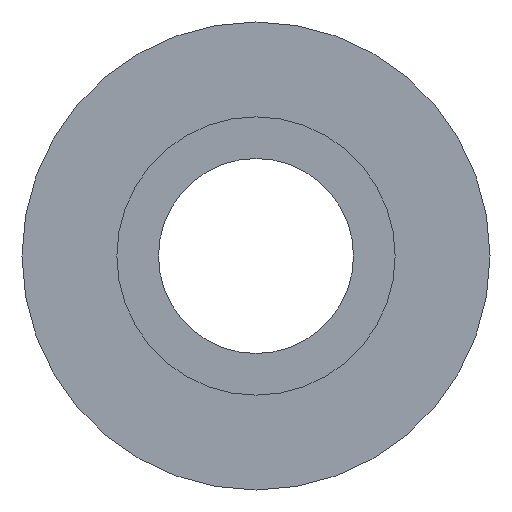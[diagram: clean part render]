
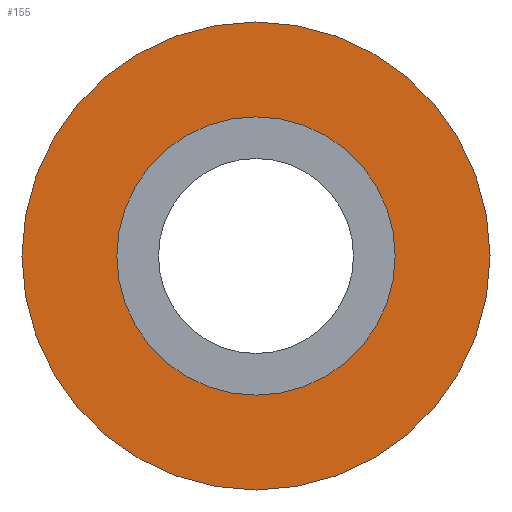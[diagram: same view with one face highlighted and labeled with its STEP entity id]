
A CAD part, left-side view. The second image highlights one B-rep face of the part: STEP entity #155.
In plain terms, the highlighted planar face has unit normal (-1, 0, 0).
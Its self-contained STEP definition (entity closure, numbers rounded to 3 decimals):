
#13=PLANE($,#176);
#22=FACE_BOUND($,#53,.T.);
#40=FACE_OUTER_BOUND($,#52,.T.);
#52=EDGE_LOOP($,(#122));
#53=EDGE_LOOP($,(#123));
#78=CIRCLE($,#174,1.42);
#80=CIRCLE($,#177,2.388);
#92=VERTEX_POINT($,#263);
#94=VERTEX_POINT($,#268);
#106=EDGE_CURVE($,#92,#92,#78,.T.);
#108=EDGE_CURVE($,#94,#94,#80,.T.);
#122=ORIENTED_EDGE($,*,*,#108,.F.);
#123=ORIENTED_EDGE($,*,*,#106,.T.);
#155=ADVANCED_FACE($,(#40,#22),#13,.T.);
#174=AXIS2_PLACEMENT_3D($,#264,#208,#209);
#176=AXIS2_PLACEMENT_3D($,#267,#212,#213);
#177=AXIS2_PLACEMENT_3D($,#269,#214,#215);
#208=DIRECTION('center_axis',(1.,0.,0.));
#209=DIRECTION('ref_axis',(0.,1.,0.));
#212=DIRECTION('center_axis',(-1.,0.,0.));
#213=DIRECTION('ref_axis',(0.,0.,1.));
#214=DIRECTION('center_axis',(1.,0.,0.));
#215=DIRECTION('ref_axis',(0.,1.,0.));
#263=CARTESIAN_POINT('',(3.581,1.42,0.));
#264=CARTESIAN_POINT('Origin',(3.581,0.,0.));
#267=CARTESIAN_POINT('Origin',(3.581,1.904,0.));
#268=CARTESIAN_POINT('',(3.581,2.388,0.));
#269=CARTESIAN_POINT('Origin',(3.581,0.,0.));
